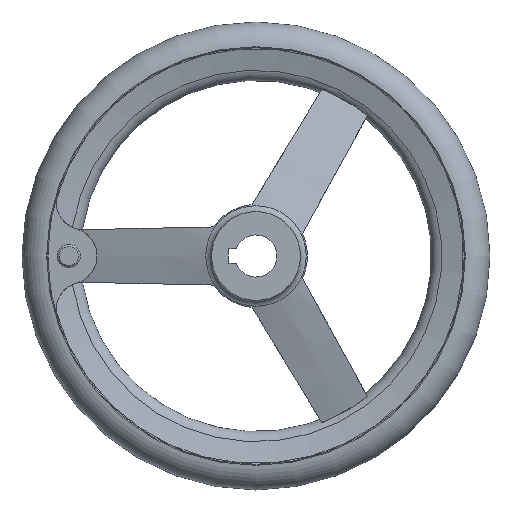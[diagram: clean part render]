
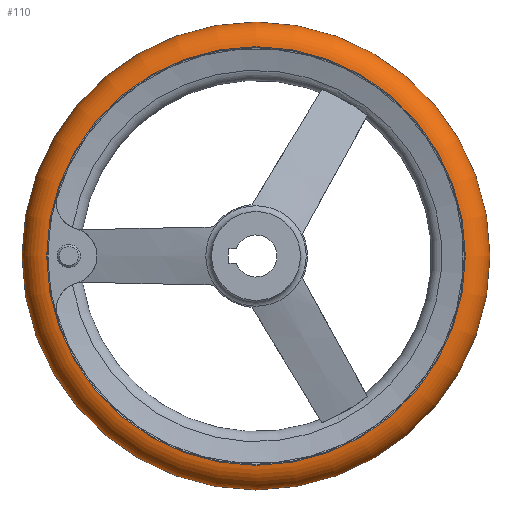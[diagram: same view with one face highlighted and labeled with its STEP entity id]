
A CAD part, left-side view. The second image highlights one B-rep face of the part: STEP entity #110.
In plain terms, the highlighted toroidal (fillet/blend) face has major radius 88.99 mm and minor radius 11.01 mm.
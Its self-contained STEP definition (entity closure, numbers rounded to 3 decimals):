
#110 = ADVANCED_FACE( '', ( #218, #219, #220 ), #221, .T. );
#218 = FACE_BOUND( '', #386, .T. );
#219 = FACE_OUTER_BOUND( '', #387, .T. );
#220 = FACE_OUTER_BOUND( '', #388, .T. );
#221 = TOROIDAL_SURFACE( '', #389, 88.99, 11.01 );
#386 = VERTEX_LOOP( '', #710 );
#387 = EDGE_LOOP( '', ( #711 ) );
#388 = EDGE_LOOP( '', ( #712 ) );
#389 = AXIS2_PLACEMENT_3D( '', #713, #714, #715 );
#710 = VERTEX_POINT( '', #960 );
#711 = ORIENTED_EDGE( '', *, *, #961, .T. );
#712 = ORIENTED_EDGE( '', *, *, #962, .F. );
#713 = CARTESIAN_POINT( '', ( 34., 0., 0. ) );
#714 = DIRECTION( '', ( 1., 0., 0. ) );
#715 = DIRECTION( '', ( 0., 1., 0. ) );
#960 = CARTESIAN_POINT( '', ( 34., 100., 0. ) );
#961 = EDGE_CURVE( '', #1172, #1172, #1173, .T. );
#962 = EDGE_CURVE( '', #1174, #1174, #1175, .T. );
#1172 = VERTEX_POINT( '', #1867 );
#1173 = CIRCLE( '', #1868, 89.458 );
#1174 = VERTEX_POINT( '', #1869 );
#1175 = CIRCLE( '', #1870, 89.458 );
#1867 = CARTESIAN_POINT( '', ( 23., 89.458, 0. ) );
#1868 = AXIS2_PLACEMENT_3D( '', #2090, #2091, #2092 );
#1869 = CARTESIAN_POINT( '', ( 45., 89.458, 0. ) );
#1870 = AXIS2_PLACEMENT_3D( '', #2093, #2094, #2095 );
#2090 = CARTESIAN_POINT( '', ( 23., 0., 0. ) );
#2091 = DIRECTION( '', ( 1., 0., 0. ) );
#2092 = DIRECTION( '', ( 0., 1., 0. ) );
#2093 = CARTESIAN_POINT( '', ( 45., 0., 0. ) );
#2094 = DIRECTION( '', ( 1., 0., 0. ) );
#2095 = DIRECTION( '', ( 0., 1., 0. ) );
